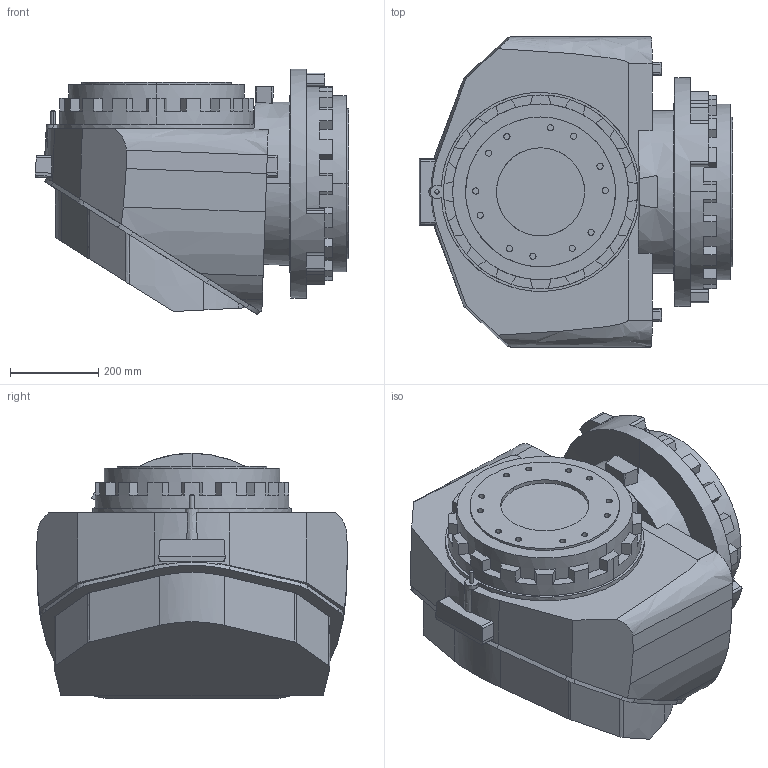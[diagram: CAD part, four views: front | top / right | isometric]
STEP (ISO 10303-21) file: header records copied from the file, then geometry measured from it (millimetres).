
FILE_DESCRIPTION (( 'STEP AP214' ), '1' );
FILE_NAME ('IRB5500_12_T00F71B41V31H51_rev1_2.step', '2006-09-01T12:41:06', ( 'Jonas Eriksson' ), ( '' ), 'SwSTEP 2.0', 'SolidWorks 2004334', '' );
FILE_SCHEMA (( 'AUTOMOTIVE_DESIGN' ));
Length unit declared in the file: millimetre
Products named in the file (1): IRB5500_12_T00F71B41V31H51_rev1_2
Bounding box: 711 x 705.66 x 557.36 mm (x, y, z)
Volume: 149798057.9 mm3; surface area: 2163091.3 mm2
Topology: 1 solids, 1 shells, 469 faces, 1378 edges, 964 vertices
Faces by surface type: plane 272, cylinder 145, bspline 50, cone 2
Entity records: 40055 total; most frequent: CARTESIAN_POINT 23899, ORIENTED_EDGE 2752, DIRECTION 1501, EDGE_CURVE 1376, VERTEX_POINT 964, B_SPLINE_CURVE_WITH_KNOTS 713, VECTOR 627, LINE 627
